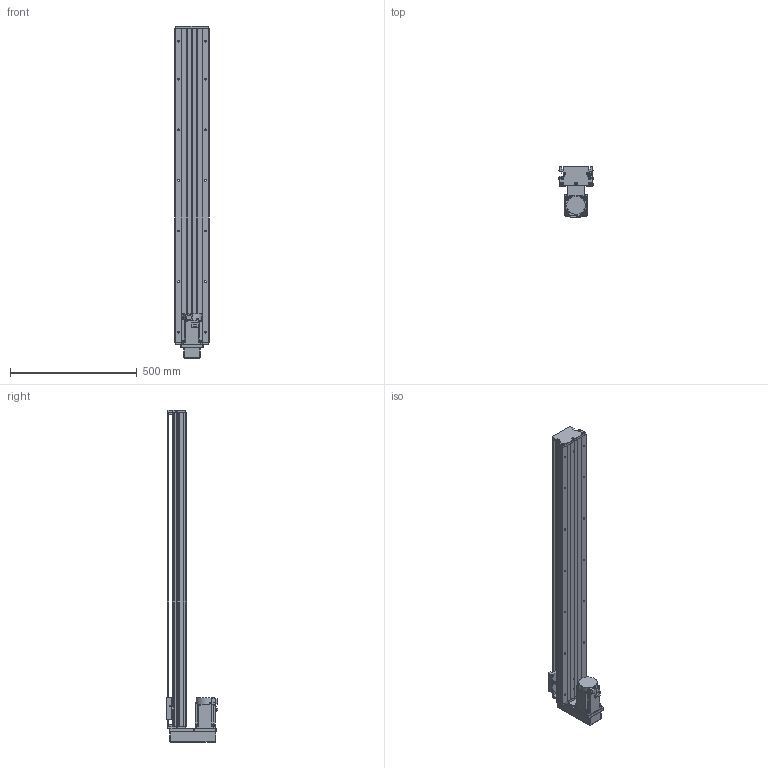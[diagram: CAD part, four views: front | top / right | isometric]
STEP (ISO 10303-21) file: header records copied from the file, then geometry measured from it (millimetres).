
FILE_DESCRIPTION (( 'STEP AP203' ), '1' );
FILE_NAME ('KTH130-1100-BM-M75-C4.step', '2023-06-30T04:36:27', ( '微软用户' ), ( '微软中国' ), 'SwSTEP 2.0', 'SolidWorks 2020', '' );
FILE_SCHEMA (( 'CONFIG_CONTROL_DESIGN' ));
Length unit declared in the file: millimetre
Products named in the file (18): KTH130-005; GBT 70.1-M3℅5; KTH130-1100-BM-M75-C4; GB1155-6X6; GBT77-2000 M3×3; GBT70.1 M5℅16; す晦芛蹟隊 M3℅5; GBT 70.2-M3¡Á5_M3¡Á6; GBT 70.3-M3℅8; CTHA60-017; hg-kn73j_-s100; KTH130-002_KTH130-002; EE_SX911P_R; GTH14-001_1100; CTHA86-015-3_CTHA86-015-4; KTH130-004; CTHA60-016; CTHA86-035
Assembly tree (49 placements, depth 2):
  KTH130-1100-BM-M75-C4
    GTH14-001_1100
    KTH130-002_KTH130-002
    KTH130-004
    KTH130-005
    GB1155-6X6  x2
    GBT70.1 M5℅16  x10
    GBT 70.2-M3¡Á5_M3¡Á6  x4
    CTHA60-017  x3
    EE_SX911P_R  x3
    CTHA60-016  x2
    GBT 70.1-M3℅5  x6
    GBT77-2000 M3×3  x6
    す晦芛蹟隊 M3℅5  x2
    GBT 70.3-M3℅8  x4
    hg-kn73j_-s100
    CTHA86-015-3_CTHA86-015-4
    CTHA86-035
Bounding box: 135 x 202.8 x 1312 mm (x, y, z)
Volume: 8022960.3 mm3; surface area: 1149707.3 mm2
Topology: 52 solids, 52 shells, 2212 faces, 5364 edges, 3359 vertices
Faces by surface type: plane 1212, cylinder 646, cone 238, torus 100, sphere 16
Entity records: 40561 total; most frequent: CARTESIAN_POINT 6822, DIRECTION 6697, ORIENTED_EDGE 6232, EDGE_CURVE 3116, AXIS2_PLACEMENT_3D 2352, VERTEX_POINT 1993, LINE 1993, VECTOR 1993
